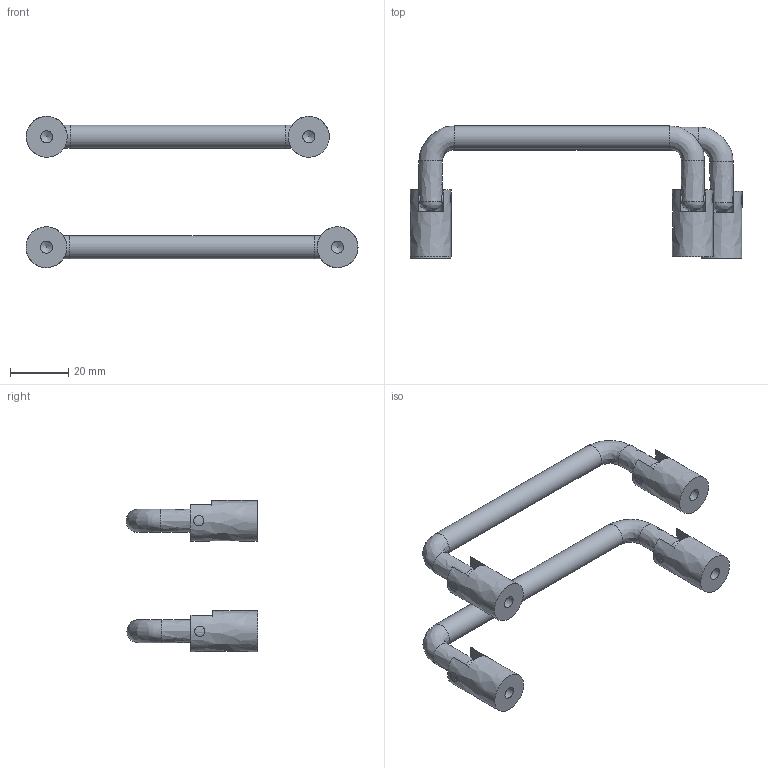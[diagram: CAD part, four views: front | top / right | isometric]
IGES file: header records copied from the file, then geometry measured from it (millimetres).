
Global section: file name: DR_A-GDN8; native system: Autodesk Inventor 2015; preprocessor: unknown; author: user; date: 20180810.105429; units: millimetre
Bounding box: 114 x 45.31 x 51.92 mm (x, y, z)
Volume: 25531.2 mm3; surface area: 14027.1 mm2
Topology: 10 solids, 10 shells, 70 faces, 190 edges, 132 vertices
Faces by surface type: bspline 70
